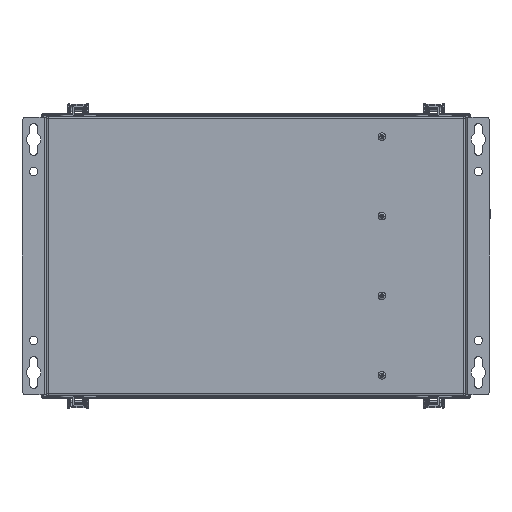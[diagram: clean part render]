
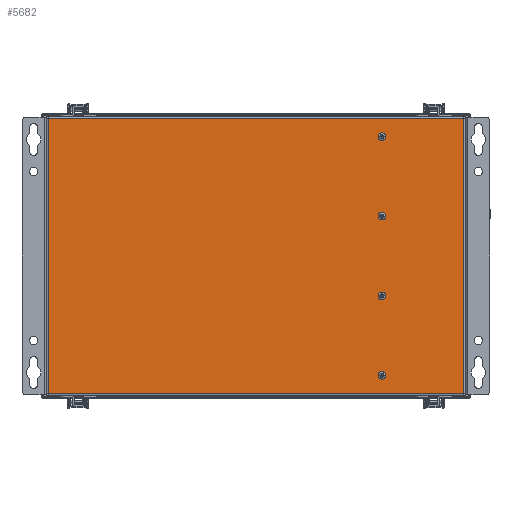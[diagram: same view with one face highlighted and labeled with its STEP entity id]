
A CAD part, front view. The second image highlights one B-rep face of the part: STEP entity #5682.
In plain terms, the highlighted planar face has unit normal (0, -1, 0).
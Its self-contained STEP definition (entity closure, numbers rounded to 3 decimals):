
#20 = ORIENTED_EDGE ( 'NONE', *, *, #6234, .T. ) ;
#754 = CARTESIAN_POINT ( 'NONE',  ( -223., 0., 148. ) ) ;
#952 = LINE ( 'NONE', #754, #11439 ) ;
#1010 = DIRECTION ( 'NONE',  ( 1., 0., 0. ) ) ;
#1146 = DIRECTION ( 'NONE',  ( 0., 0., 1. ) ) ;
#1241 = DIRECTION ( 'NONE',  ( 0., 0., -1. ) ) ;
#2325 = EDGE_CURVE ( 'NONE', #18521, #25447, #24208, .T. ) ;
#2411 = CARTESIAN_POINT ( 'NONE',  ( -225., 0., 150. ) ) ;
#2611 = CARTESIAN_POINT ( 'NONE',  ( 135., 0., 44.767 ) ) ;
#3236 = VECTOR ( 'NONE', #1010, 1000. ) ;
#3328 = VERTEX_POINT ( 'NONE', #14254 ) ;
#3474 = DIRECTION ( 'NONE',  ( 0., -1., 0. ) ) ;
#4008 = FACE_BOUND ( 'NONE', #24436, .T. ) ;
#4075 = VERTEX_POINT ( 'NONE', #14461 ) ;
#4127 = AXIS2_PLACEMENT_3D ( 'NONE', #16032, #3474, #18136 ) ;
#4641 = DIRECTION ( 'NONE',  ( 0., 1., 0. ) ) ;
#4664 = ORIENTED_EDGE ( 'NONE', *, *, #16676, .F. ) ;
#5034 = AXIS2_PLACEMENT_3D ( 'NONE', #23093, #10520, #25186 ) ;
#5045 = ORIENTED_EDGE ( 'NONE', *, *, #15621, .F. ) ;
#5135 = ORIENTED_EDGE ( 'NONE', *, *, #17758, .T. ) ;
#5682 = ADVANCED_FACE ( 'NONE', ( #9604, #4008, #5990, #25638, #20075 ), #14976, .F. ) ;
#5760 = DIRECTION ( 'NONE',  ( 0., -1., 0. ) ) ;
#5800 = EDGE_CURVE ( 'NONE', #7202, #9491, #16774, .T. ) ;
#5855 = CIRCLE ( 'NONE', #5034, 2.1 ) ;
#5867 = EDGE_CURVE ( 'NONE', #17836, #7202, #10543, .T. ) ;
#5990 = FACE_OUTER_BOUND ( 'NONE', #10167, .T. ) ;
#6066 = EDGE_CURVE ( 'NONE', #16056, #7260, #12757, .T. ) ;
#6170 = CARTESIAN_POINT ( 'NONE',  ( -223., 0., -148. ) ) ;
#6234 = EDGE_CURVE ( 'NONE', #19540, #17836, #19977, .T. ) ;
#6236 = CIRCLE ( 'NONE', #25405, 2.1 ) ;
#6965 = VECTOR ( 'NONE', #7135, 1000. ) ;
#7135 = DIRECTION ( 'NONE',  ( -1., 0., 0. ) ) ;
#7202 = VERTEX_POINT ( 'NONE', #24581 ) ;
#7260 = VERTEX_POINT ( 'NONE', #18428 ) ;
#7864 = VERTEX_POINT ( 'NONE', #27101 ) ;
#8811 = CARTESIAN_POINT ( 'NONE',  ( 135., 0., 42.667 ) ) ;
#9130 = CIRCLE ( 'NONE', #4127, 2.1 ) ;
#9491 = VERTEX_POINT ( 'NONE', #17651 ) ;
#9604 = FACE_BOUND ( 'NONE', #19073, .T. ) ;
#9726 = CARTESIAN_POINT ( 'NONE',  ( 135., 0., -42.667 ) ) ;
#9798 = DIRECTION ( 'NONE',  ( 0., -1., 0. ) ) ;
#10167 = EDGE_LOOP ( 'NONE', ( #5135, #20, #19092, #14579 ) ) ;
#10520 = DIRECTION ( 'NONE',  ( 0., -1., 0. ) ) ;
#10543 = LINE ( 'NONE', #19855, #20394 ) ;
#10901 = DIRECTION ( 'NONE',  ( 0., 0., -1. ) ) ;
#11179 = DIRECTION ( 'NONE',  ( 0., -1., 0. ) ) ;
#11248 = ORIENTED_EDGE ( 'NONE', *, *, #25436, .F. ) ;
#11439 = VECTOR ( 'NONE', #17422, 1000. ) ;
#11812 = DIRECTION ( 'NONE',  ( 0., 0., -1. ) ) ;
#12757 = CIRCLE ( 'NONE', #13119, 2.1 ) ;
#13119 = AXIS2_PLACEMENT_3D ( 'NONE', #8811, #23441, #10901 ) ;
#13144 = AXIS2_PLACEMENT_3D ( 'NONE', #22334, #9798, #24435 ) ;
#13590 = CARTESIAN_POINT ( 'NONE',  ( 223., 0., -148. ) ) ;
#13596 = AXIS2_PLACEMENT_3D ( 'NONE', #23727, #11179, #25846 ) ;
#13809 = DIRECTION ( 'NONE',  ( 0., -1., 0. ) ) ;
#14254 = CARTESIAN_POINT ( 'NONE',  ( 135., 0., 130.1 ) ) ;
#14461 = CARTESIAN_POINT ( 'NONE',  ( 135., 0., -44.767 ) ) ;
#14579 = ORIENTED_EDGE ( 'NONE', *, *, #5800, .T. ) ;
#14976 = PLANE ( 'NONE',  #23993 ) ;
#15621 = EDGE_CURVE ( 'NONE', #16063, #3328, #26296, .T. ) ;
#16032 = CARTESIAN_POINT ( 'NONE',  ( 135., 0., 42.667 ) ) ;
#16056 = VERTEX_POINT ( 'NONE', #2611 ) ;
#16063 = VERTEX_POINT ( 'NONE', #25637 ) ;
#16676 = EDGE_CURVE ( 'NONE', #3328, #16063, #6236, .T. ) ;
#16774 = LINE ( 'NONE', #21764, #6965 ) ;
#17422 = DIRECTION ( 'NONE',  ( 0., 0., -1. ) ) ;
#17651 = CARTESIAN_POINT ( 'NONE',  ( -223., 0., 148. ) ) ;
#17758 = EDGE_CURVE ( 'NONE', #9491, #19540, #952, .T. ) ;
#17836 = VERTEX_POINT ( 'NONE', #13590 ) ;
#17856 = EDGE_LOOP ( 'NONE', ( #18591, #19520 ) ) ;
#17928 = CIRCLE ( 'NONE', #13144, 2.1 ) ;
#18136 = DIRECTION ( 'NONE',  ( 0., 0., -1. ) ) ;
#18262 = CARTESIAN_POINT ( 'NONE',  ( 135., 0., 128. ) ) ;
#18428 = CARTESIAN_POINT ( 'NONE',  ( 135., 0., 40.567 ) ) ;
#18521 = VERTEX_POINT ( 'NONE', #20791 ) ;
#18591 = ORIENTED_EDGE ( 'NONE', *, *, #18856, .F. ) ;
#18856 = EDGE_CURVE ( 'NONE', #4075, #7864, #17928, .T. ) ;
#18960 = AXIS2_PLACEMENT_3D ( 'NONE', #9726, #24368, #11812 ) ;
#19073 = EDGE_LOOP ( 'NONE', ( #11248, #26686 ) ) ;
#19092 = ORIENTED_EDGE ( 'NONE', *, *, #5867, .T. ) ;
#19187 = CIRCLE ( 'NONE', #18960, 2.1 ) ;
#19290 = DIRECTION ( 'NONE',  ( 0., 0., 1. ) ) ;
#19520 = ORIENTED_EDGE ( 'NONE', *, *, #19948, .F. ) ;
#19540 = VERTEX_POINT ( 'NONE', #6170 ) ;
#19812 = CARTESIAN_POINT ( 'NONE',  ( -225., 0., -148. ) ) ;
#19855 = CARTESIAN_POINT ( 'NONE',  ( 223., 0., -148. ) ) ;
#19948 = EDGE_CURVE ( 'NONE', #7864, #4075, #19187, .T. ) ;
#19977 = LINE ( 'NONE', #19812, #3236 ) ;
#19981 = AXIS2_PLACEMENT_3D ( 'NONE', #26371, #13809, #1241 ) ;
#20075 = FACE_BOUND ( 'NONE', #24287, .T. ) ;
#20391 = DIRECTION ( 'NONE',  ( 0., 0., -1. ) ) ;
#20394 = VECTOR ( 'NONE', #1146, 1000. ) ;
#20791 = CARTESIAN_POINT ( 'NONE',  ( 135., 0., -125.9 ) ) ;
#21480 = ORIENTED_EDGE ( 'NONE', *, *, #2325, .F. ) ;
#21764 = CARTESIAN_POINT ( 'NONE',  ( 225., 0., 148. ) ) ;
#22334 = CARTESIAN_POINT ( 'NONE',  ( 135., 0., -42.667 ) ) ;
#23093 = CARTESIAN_POINT ( 'NONE',  ( 135., 0., -128. ) ) ;
#23441 = DIRECTION ( 'NONE',  ( 0., -1., 0. ) ) ;
#23727 = CARTESIAN_POINT ( 'NONE',  ( 135., 0., 128. ) ) ;
#23993 = AXIS2_PLACEMENT_3D ( 'NONE', #2411, #4641, #19290 ) ;
#24208 = CIRCLE ( 'NONE', #19981, 2.1 ) ;
#24287 = EDGE_LOOP ( 'NONE', ( #27203, #21480 ) ) ;
#24368 = DIRECTION ( 'NONE',  ( 0., -1., 0. ) ) ;
#24383 = CARTESIAN_POINT ( 'NONE',  ( 135., 0., -130.1 ) ) ;
#24435 = DIRECTION ( 'NONE',  ( 0., 0., -1. ) ) ;
#24436 = EDGE_LOOP ( 'NONE', ( #5045, #4664 ) ) ;
#24581 = CARTESIAN_POINT ( 'NONE',  ( 223., 0., 148. ) ) ;
#25186 = DIRECTION ( 'NONE',  ( 0., 0., -1. ) ) ;
#25405 = AXIS2_PLACEMENT_3D ( 'NONE', #18262, #5760, #20391 ) ;
#25436 = EDGE_CURVE ( 'NONE', #7260, #16056, #9130, .T. ) ;
#25447 = VERTEX_POINT ( 'NONE', #24383 ) ;
#25637 = CARTESIAN_POINT ( 'NONE',  ( 135., 0., 125.9 ) ) ;
#25638 = FACE_BOUND ( 'NONE', #17856, .T. ) ;
#25663 = EDGE_CURVE ( 'NONE', #25447, #18521, #5855, .T. ) ;
#25846 = DIRECTION ( 'NONE',  ( 0., 0., -1. ) ) ;
#26296 = CIRCLE ( 'NONE', #13596, 2.1 ) ;
#26371 = CARTESIAN_POINT ( 'NONE',  ( 135., 0., -128. ) ) ;
#26686 = ORIENTED_EDGE ( 'NONE', *, *, #6066, .F. ) ;
#27101 = CARTESIAN_POINT ( 'NONE',  ( 135., 0., -40.567 ) ) ;
#27203 = ORIENTED_EDGE ( 'NONE', *, *, #25663, .F. ) ;
